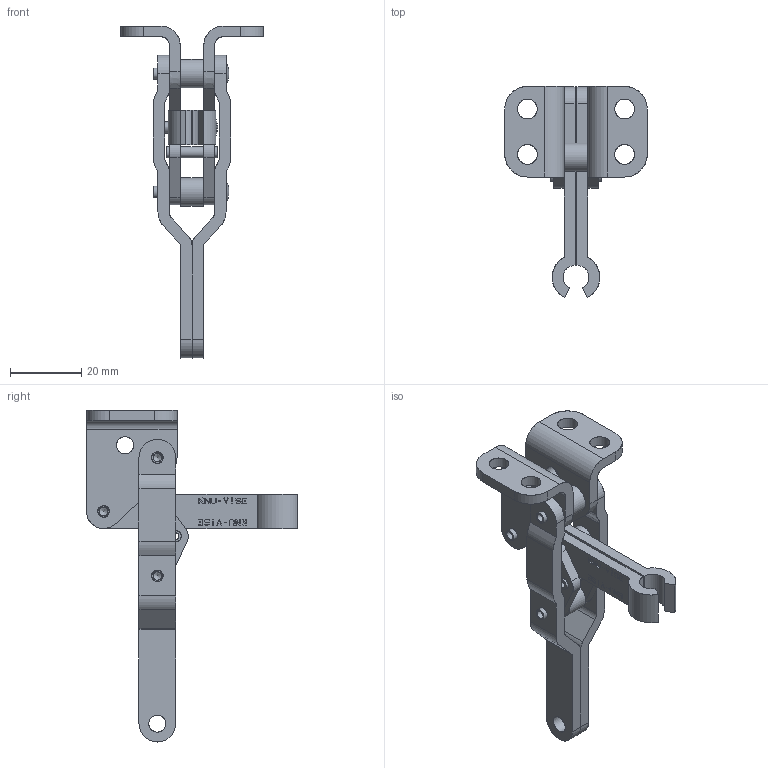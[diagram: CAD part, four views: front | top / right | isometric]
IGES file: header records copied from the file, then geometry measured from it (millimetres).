
Global section: file name: F:\Furrer\220 series\220iges\vst-220.igs; native system: Unigraphics Version X V2.0; preprocessor: Unigraphics NX IGES V2.0; date: 20041208.233958; units: inch
Bounding box: 39.93 x 59.13 x 93.03 mm (x, y, z)
Surface area: 15908.4 mm2 (no closed solid volume)
Topology: 0 solids, 0 shells, 572 faces, 5158 edges, 5108 vertices
Faces by surface type: extrusion 482, revolution 86, offset 4
